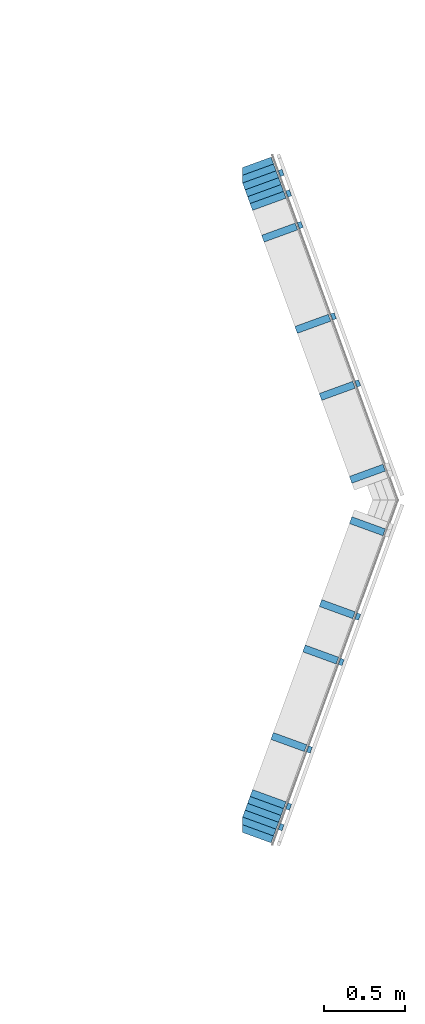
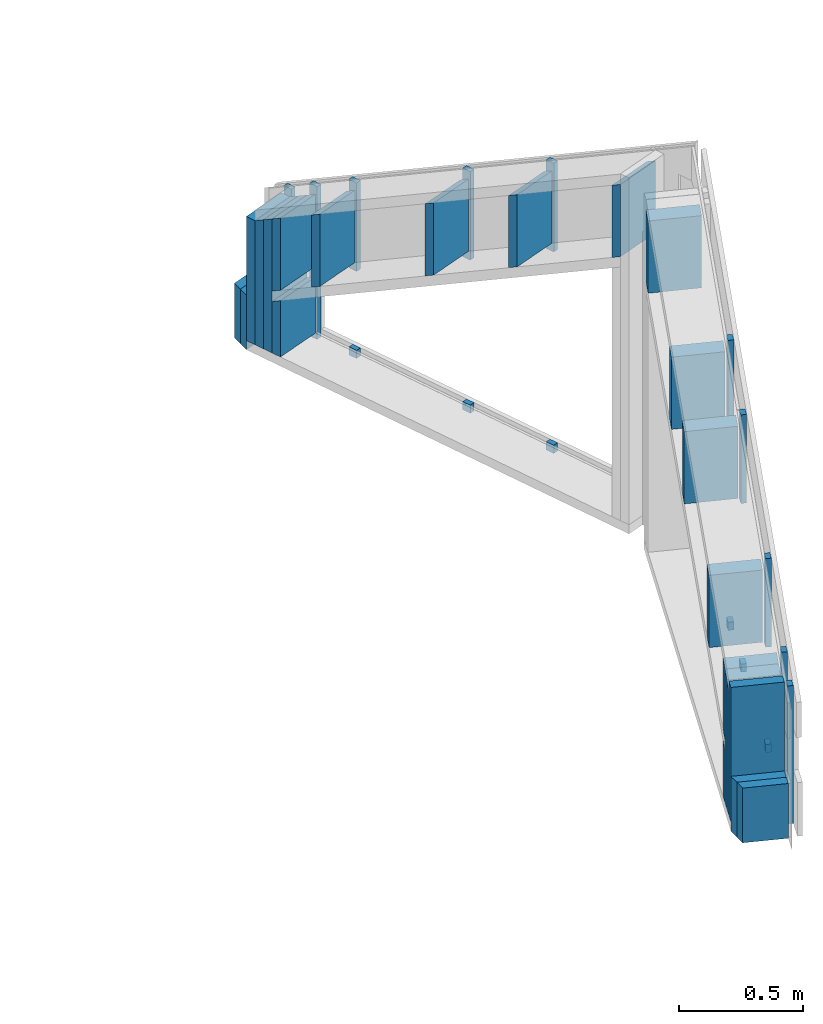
# One storey, part 21 of 24: 38 members.
"""IFC2X3 building model written with IfcOpenShell, lengths in metres."""

from ifc_helpers import new_model, si_unit, direction, frame, origin_with_axes, place, context, subcontext, project, spatial, faceted_brep, material, element, save


model = new_model("IFC2X3")

# Units and contexts
model_context = context("Model", 3, precision=1e-06, world=origin_with_axes(), true_north=direction((0.0, 1.0, 0.0)))
body_context = subcontext(model_context, "Body", "Model", "MODEL_VIEW")
ifc_project = project(units=[si_unit("LENGTHUNIT", "METRE"), si_unit("AREAUNIT", "SQUARE_METRE"), si_unit("VOLUMEUNIT", "CUBIC_METRE"), si_unit("PLANEANGLEUNIT", "RADIAN")], contexts=[model_context])

# Site, building, storey
site_placement = place(None, origin_with_axes())
site = spatial("IfcSite", under=ifc_project, at=site_placement, CompositionType="ELEMENT")
building_placement = place(site_placement, origin_with_axes())
building = spatial("IfcBuilding", under=site, at=building_placement, Name="Building 1", CompositionType="ELEMENT")
storey_placement = place(building_placement, origin_with_axes())
storey = spatial("IfcBuildingStorey", under=building, at=storey_placement, Name="Premier Etage", CompositionType="ELEMENT", Elevation=0.0)

# Members
ifc_material = material(Name="Epicéa C24")
member_1_placement = place(storey_placement, frame((17.7457776, 3.7421561, 3.39174), z_axis=(0.9396926, 0.3420201, 0.0), x_axis=(0.0, 0.0, -1.0)))
element("IfcMember", 1, at=member_1_placement, inside=storey, material=ifc_material, Name="Montant", context=body_context, shape_type="Brep", body=[
    faceted_brep([(0.0, -0.0225, -0.11), (0.0, -0.0225, 0.11), (0.0244139, 0.0225, 0.11), (0.0244139, 0.0225, -0.11), (0.63674, -0.0225, 0.11), (0.63674, 0.0225, 0.11), (0.63674, -0.0225, -0.11), (0.63674, 0.0225, -0.11)], [[[0, 1, 2, 3]], [[2, 1, 4, 5]], [[1, 0, 6, 4]], [[3, 2, 5, 7]], [[0, 3, 7, 6]], [[6, 7, 5, 4]]]),
])
member_2_placement = place(storey_placement, frame((17.7765595, -0.0380239, 3.033), z_axis=(0.9396926, -0.3420201, 0.0), x_axis=(0.0, 0.0, -1.0)))
element("IfcMember", 2, at=member_2_placement, inside=storey, material=ifc_material, Name="Montant", context=body_context, shape_type="Brep", body=[
    faceted_brep([(0.0244139, -0.0225, -0.11), (0.0244139, -0.0225, 0.11), (0.0, 0.0225, 0.11), (0.0, 0.0225, -0.11), (0.278, -0.0225, 0.11), (0.278, 0.0225, 0.11), (0.278, -0.0225, -0.11), (0.278, 0.0225, -0.11)], [[[0, 1, 2, 3]], [[2, 1, 4, 5]], [[1, 0, 6, 4]], [[6, 7, 5, 4]], [[0, 3, 7, 6]], [[3, 2, 5, 7]]]),
])
member_3_placement = place(storey_placement, frame((17.7765595, 3.6575836, 3.033), z_axis=(0.9396926, 0.3420201, 0.0), x_axis=(0.0, 0.0, -1.0)))
element("IfcMember", 3, at=member_3_placement, inside=storey, material=ifc_material, Name="Montant", context=body_context, shape_type="Brep", body=[
    faceted_brep([(0.0244139, 0.0225, 0.11), (0.0244139, 0.0225, -0.11), (0.0, -0.0225, -0.11), (0.0, -0.0225, 0.11), (0.278, 0.0225, -0.11), (0.278, -0.0225, -0.11), (0.278, 0.0225, 0.11), (0.278, -0.0225, 0.11)], [[[0, 1, 2, 3]], [[2, 1, 4, 5]], [[1, 0, 6, 4]], [[5, 4, 6, 7]], [[3, 2, 5, 7]], [[0, 3, 7, 6]]]),
])
for number, where, z_axis, x_axis, name in (
    (4, (18.3305767, 2.5301475, 2.755), (0.9396926, 0.3420201, 0.0), (0.0, 0.0, -1.0), "latte 27/40"),
    (5, (18.2285081, 0.8089812, 2.755), (0.9396926, -0.3420201, 0.0), (0.0, 0.0, -1.0), "latte 27/40"),
):
    element("IfcMember", number, at=place(storey_placement, frame(where, z_axis=z_axis, x_axis=x_axis)), inside=storey, material=ifc_material, Name=name, context=body_context, shape_type="Brep", body=[
        faceted_brep([(0.04, 0.02, -0.012), (0.04, 0.02, 0.012), (0.04, -0.02, 0.012), (0.04, -0.02, -0.012), (0.0, 0.02, 0.012), (0.0, 0.02, -0.012), (0.0, -0.02, -0.012), (0.0, -0.02, 0.012)], [[[0, 1, 2, 3]], [[4, 5, 6, 7]], [[3, 6, 5, 0]], [[2, 7, 6, 3]], [[1, 4, 7, 2]], [[0, 5, 4, 1]]]),
    ])
member_4_placement = place(storey_placement, frame((17.903418, 3.7037563, 3.4687064), z_axis=(0.9396926, 0.3420201, 0.0), x_axis=(0.0, 0.0, -1.0)))
element("IfcMember", 6, at=member_4_placement, inside=storey, material=ifc_material, Name="latte 27/40", context=body_context, shape_type="Brep", body=[
    faceted_brep([(0.7537064, 0.02, -0.012), (0.7537064, 0.02, 0.012), (0.7537064, -0.02, 0.012), (0.7537064, -0.02, -0.012), (0.0, 0.02, 0.012), (0.0, 0.02, -0.012), (0.0, -0.02, -0.012), (0.0, -0.02, 0.012)], [[[0, 1, 2, 3]], [[4, 5, 6, 7]], [[3, 6, 5, 0]], [[2, 7, 6, 3]], [[1, 4, 7, 2]], [[0, 5, 4, 1]]]),
])
member_5_placement = place(storey_placement, frame((17.7611686, 3.6998698, 3.416154), z_axis=(0.9396926, 0.3420201, 0.0), x_axis=(0.0, 0.0, -1.0)))
element("IfcMember", 7, at=member_5_placement, inside=storey, material=ifc_material, Name="Montant", context=body_context, shape_type="Brep", body=[
    faceted_brep([(0.0, -0.0225, 0.11), (0.0, -0.0225, -0.11), (0.661154, -0.0225, -0.11), (0.661154, -0.0225, 0.11), (0.0244139, 0.0225, 0.11), (0.661154, 0.0225, 0.11), (0.0244139, 0.0225, -0.11), (0.661154, 0.0225, -0.11)], [[[0, 1, 2, 3]], [[4, 0, 3, 5]], [[6, 4, 5, 7]], [[1, 6, 7, 2]], [[4, 6, 1, 0]], [[2, 7, 5, 3]]]),
])
for number, where, z_axis, x_axis, name in (
    (8, (18.2285081, 0.8089812, 3.9843828), (0.9396926, -0.3420201, 0.0), (0.0, 0.0, -1.0), "latte 27/40"),
    (9, (18.0316755, 0.2681881, 3.6721558), (0.9396926, -0.3420201, 0.0), (0.0, 0.0, -1.0), "latte 27/40"),
):
    element("IfcMember", number, at=place(storey_placement, frame(where, z_axis=z_axis, x_axis=x_axis)), inside=storey, material=ifc_material, Name=name, context=body_context, shape_type="Brep", body=[
        faceted_brep([(0.4370627, 0.02, -0.012), (0.4370627, 0.02, 0.012), (0.4370627, -0.02, 0.012), (0.4370627, -0.02, -0.012), (0.0, 0.02, 0.012), (0.0, 0.02, -0.012), (0.0, -0.02, -0.012), (0.0, -0.02, 0.012)], [[[0, 1, 2, 3]], [[4, 5, 6, 7]], [[3, 6, 5, 0]], [[2, 7, 6, 3]], [[1, 4, 7, 2]], [[0, 5, 4, 1]]]),
    ])
member_6_placement = place(storey_placement, frame((17.7765595, 3.6575836, 3.4405679), z_axis=(0.9396926, 0.3420201, 0.0), x_axis=(0.0, 0.0, -1.0)))
element("IfcMember", 10, at=member_6_placement, inside=storey, material=ifc_material, Name="Montant", context=body_context, shape_type="Brep", body=[
    faceted_brep([(0.3807858, 0.0225, -0.11), (0.3807858, 0.0225, 0.11), (0.3563719, -0.0225, 0.11), (0.3563719, -0.0225, -0.11), (0.0, -0.0225, -0.11), (0.0244139, 0.0225, -0.11), (0.0, -0.0225, 0.11), (0.0244139, 0.0225, 0.11)], [[[0, 1, 2, 3]], [[0, 3, 4, 5]], [[3, 2, 6, 4]], [[2, 1, 7, 6]], [[4, 6, 7, 5]], [[1, 0, 5, 7]]]),
])
member_7_placement = place(storey_placement, frame((17.7611686, -0.0803101, 3.416154), z_axis=(0.9396926, -0.3420201, 0.0), x_axis=(0.0, 0.0, -1.0)))
element("IfcMember", 11, at=member_7_placement, inside=storey, material=ifc_material, Name="Montant", context=body_context, shape_type="Brep", body=[
    faceted_brep([(0.0244139, -0.0225, 0.11), (0.0244139, -0.0225, -0.11), (0.661154, -0.0225, -0.11), (0.661154, -0.0225, 0.11), (0.0, 0.0225, 0.11), (0.661154, 0.0225, 0.11), (0.0, 0.0225, -0.11), (0.661154, 0.0225, -0.11)], [[[0, 1, 2, 3]], [[4, 0, 3, 5]], [[6, 4, 5, 7]], [[1, 6, 7, 2]], [[1, 0, 4, 6]], [[2, 7, 5, 3]]]),
])
member_8_placement = place(storey_placement, frame((17.7073004, -0.2522557, 2.71), z_axis=(-0.9396926, 0.3420201, 0.0), x_axis=(0.0, 0.0, 1.0)))
element("IfcMember", 12, at=member_8_placement, inside=storey, material=ifc_material, Name="Montant", context=body_context, shape_type="Brep", body=[
    faceted_brep([(0.27, -0.0225, 0.085432), (0.27, 0.0225, 0.1018107), (0.0, 0.0225, 0.1018107), (0.0, -0.0225, 0.085432), (0.27, 0.0225, -0.1018107), (0.0, 0.0225, -0.1018107), (0.27, -0.0225, -0.1018107), (0.0, -0.0225, -0.1018107)], [[[0, 1, 2, 3]], [[2, 1, 4, 5]], [[1, 0, 6, 4]], [[3, 2, 5, 7]], [[0, 3, 7, 6]], [[5, 4, 6, 7]]]),
])
member_9_placement = place(storey_placement, frame((18.3901191, 1.6477174, 4.4138311), z_axis=(0.9396926, -0.3420201, 0.0), x_axis=(0.0, 0.0, -1.0)))
element("IfcMember", 13, at=member_9_placement, inside=storey, material=ifc_material, Name="Montant", context=body_context, shape_type="Brep", body=[
    faceted_brep([(0.3563718, 0.0225, 0.11), (0.3807857, -0.0225, 0.11), (0.3807857, -0.0225, -0.11), (0.3563718, 0.0225, -0.11), (0.0244139, -0.0225, 0.11), (0.0244139, -0.0225, -0.11), (0.0, 0.0225, 0.11), (0.0, 0.0225, -0.11)], [[[0, 1, 2, 3]], [[2, 1, 4, 5]], [[1, 0, 6, 4]], [[5, 4, 6, 7]], [[0, 3, 7, 6]], [[3, 2, 5, 7]]]),
])
member_10_placement = place(storey_placement, frame((17.7765595, -0.0380239, 3.4405679), z_axis=(0.9396926, -0.3420201, 0.0), x_axis=(0.0, 0.0, -1.0)))
element("IfcMember", 14, at=member_10_placement, inside=storey, material=ifc_material, Name="Montant", context=body_context, shape_type="Brep", body=[
    faceted_brep([(0.3563718, 0.0225, -0.11), (0.3563718, 0.0225, 0.11), (0.3807857, -0.0225, 0.11), (0.3807857, -0.0225, -0.11), (0.0244139, -0.0225, -0.11), (0.0, 0.0225, -0.11), (0.0244139, -0.0225, 0.11), (0.0, 0.0225, 0.11)], [[[0, 1, 2, 3]], [[0, 3, 4, 5]], [[3, 2, 6, 4]], [[4, 6, 7, 5]], [[2, 1, 7, 6]], [[1, 0, 5, 7]]]),
])
member_11_placement = place(storey_placement, frame((17.903418, -0.0841966, 3.4687064), z_axis=(0.9396926, -0.3420201, 0.0), x_axis=(0.0, 0.0, -1.0)))
element("IfcMember", 15, at=member_11_placement, inside=storey, material=ifc_material, Name="latte 27/40", context=body_context, shape_type="Brep", body=[
    faceted_brep([(0.7537064, 0.02, -0.012), (0.7537064, 0.02, 0.012), (0.7537064, -0.02, 0.012), (0.7537064, -0.02, -0.012), (0.0, 0.02, 0.012), (0.0, 0.02, -0.012), (0.0, -0.02, -0.012), (0.0, -0.02, 0.012)], [[[0, 1, 2, 3]], [[4, 5, 6, 7]], [[3, 6, 5, 0]], [[2, 7, 6, 3]], [[1, 4, 7, 2]], [[0, 5, 4, 1]]]),
])
member_12_placement = place(storey_placement, frame((18.3305767, 2.5301475, 4.1462898), z_axis=(0.9396926, 0.3420201, 0.0), x_axis=(0.0, 0.0, -1.0)))
element("IfcMember", 16, at=member_12_placement, inside=storey, material=ifc_material, Name="latte 27/40", context=body_context, shape_type="Brep", body=[
    faceted_brep([(0.4370627, 0.02, -0.012), (0.4370628, 0.02, 0.012), (0.4370628, -0.02, 0.012), (0.4370628, -0.02, -0.012), (0.0, 0.02, 0.012), (0.0, 0.02, -0.012), (0.0, -0.02, -0.012), (0.0, -0.02, 0.012)], [[[0, 1, 2, 3]], [[4, 5, 6, 7]], [[3, 6, 5, 0]], [[2, 7, 6, 3]], [[1, 4, 7, 2]], [[0, 5, 4, 1]]]),
])
member_13_placement = place(storey_placement, frame((18.1016496, 0.8551539, 3.9562443), z_axis=(0.9396926, -0.3420201, 0.0), x_axis=(0.0, 0.0, -1.0)))
element("IfcMember", 17, at=member_13_placement, inside=storey, material=ifc_material, Name="Montant", context=body_context, shape_type="Brep", body=[
    faceted_brep([(0.3563718, 0.0225, -0.11), (0.3563718, 0.0225, 0.11), (0.3807857, -0.0225, 0.11), (0.3807857, -0.0225, -0.11), (0.0244139, -0.0225, -0.11), (0.0, 0.0225, -0.11), (0.0244139, -0.0225, 0.11), (0.0, 0.0225, 0.11)], [[[0, 1, 2, 3]], [[0, 3, 4, 5]], [[3, 2, 6, 4]], [[4, 6, 7, 5]], [[2, 1, 7, 6]], [[1, 0, 5, 7]]]),
])
member_14_placement = place(storey_placement, frame((17.7149958, -0.2071686, 2.71), z_axis=(-0.9396926, 0.3420201, 0.0), x_axis=(0.0, 0.0, 1.0)))
element("IfcMember", 18, at=member_14_placement, inside=storey, material=ifc_material, Name="Montant", context=body_context, shape_type="Brep", body=[
    faceted_brep([(0.27, -0.0225, 0.0936213), (0.27, 0.0225, 0.11), (0.0, 0.0225, 0.11), (0.0, -0.0225, 0.0936213), (0.27, -0.0225, -0.11), (0.27, 0.0225, -0.11), (0.0, 0.0225, -0.11), (0.0, -0.0225, -0.11)], [[[0, 1, 2, 3]], [[1, 0, 4, 5]], [[3, 2, 6, 7]], [[0, 3, 7, 4]], [[6, 5, 4, 7]], [[2, 1, 5, 6]]]),
])
member_15_placement = place(storey_placement, frame((18.2037181, 1.1355849, 4.1181512), z_axis=(0.9396926, -0.3420201, 0.0), x_axis=(0.0, 0.0, -1.0)))
element("IfcMember", 19, at=member_15_placement, inside=storey, material=ifc_material, Name="Montant", context=body_context, shape_type="Brep", body=[
    faceted_brep([(0.3563718, 0.0225, -0.11), (0.3563718, 0.0225, 0.11), (0.3807857, -0.0225, 0.11), (0.3807857, -0.0225, -0.11), (0.0244139, -0.0225, -0.11), (0.0, 0.0225, -0.11), (0.0244139, -0.0225, 0.11), (0.0, 0.0225, 0.11)], [[[0, 1, 2, 3]], [[0, 3, 4, 5]], [[3, 2, 6, 4]], [[4, 6, 7, 5]], [[2, 1, 7, 6]], [[1, 0, 5, 7]]]),
])
member_16_placement = place(storey_placement, frame((18.3305767, 1.0894122, 4.1462897), z_axis=(0.9396926, -0.3420201, 0.0), x_axis=(0.0, 0.0, -1.0)))
element("IfcMember", 20, at=member_16_placement, inside=storey, material=ifc_material, Name="latte 27/40", context=body_context, shape_type="Brep", body=[
    faceted_brep([(0.4370627, 0.02, -0.012), (0.4370627, 0.02, 0.012), (0.4370627, -0.02, 0.012), (0.4370627, -0.02, -0.012), (0.0, 0.02, 0.012), (0.0, 0.02, -0.012), (0.0, -0.02, -0.012), (0.0, -0.02, 0.012)], [[[0, 1, 2, 3]], [[4, 5, 6, 7]], [[3, 6, 5, 0]], [[2, 7, 6, 3]], [[1, 4, 7, 2]], [[0, 5, 4, 1]]]),
])
member_17_placement = place(storey_placement, frame((18.1799168, 2.9440821, 3.9073046), z_axis=(0.9396926, 0.3420201, 0.0), x_axis=(0.0, 0.0, -1.0)))
element("IfcMember", 21, at=member_17_placement, inside=storey, material=ifc_material, Name="latte 27/40", context=body_context, shape_type="Brep", body=[
    faceted_brep([(0.4370627, 0.02, -0.012), (0.4370628, 0.02, 0.012), (0.4370628, -0.02, 0.012), (0.4370628, -0.02, -0.012), (0.0, 0.02, 0.012), (0.0, 0.02, -0.012), (0.0, -0.02, -0.012), (0.0, -0.02, 0.012)], [[[0, 1, 2, 3]], [[4, 5, 6, 7]], [[3, 6, 5, 0]], [[2, 7, 6, 3]], [[1, 4, 7, 2]], [[0, 5, 4, 1]]]),
])
member_18_placement = place(storey_placement, frame((18.3305767, 1.0894122, 2.755), z_axis=(0.9396926, -0.3420201, 0.0), x_axis=(0.0, 0.0, -1.0)))
element("IfcMember", 22, at=member_18_placement, inside=storey, material=ifc_material, Name="latte 27/40", context=body_context, shape_type="Brep", body=[
    faceted_brep([(0.04, 0.02, -0.012), (0.04, 0.02, 0.012), (0.04, -0.02, 0.012), (0.04, -0.02, -0.012), (0.0, 0.02, 0.012), (0.0, 0.02, -0.012), (0.0, -0.02, -0.012), (0.0, -0.02, 0.012)], [[[0, 1, 2, 3]], [[4, 5, 6, 7]], [[3, 6, 5, 0]], [[2, 7, 6, 3]], [[1, 4, 7, 2]], [[0, 5, 4, 1]]]),
])
member_19_placement = place(storey_placement, frame((17.8478462, 3.461725, 3.553647), z_axis=(0.9396926, 0.3420201, 0.0), x_axis=(0.0, 0.0, -1.0)))
element("IfcMember", 23, at=member_19_placement, inside=storey, material=ifc_material, Name="Montant", context=body_context, shape_type="Brep", body=[
    faceted_brep([(0.3807858, 0.0225, -0.11), (0.3807858, 0.0225, 0.11), (0.3563719, -0.0225, 0.11), (0.3563719, -0.0225, -0.11), (0.0, -0.0225, -0.11), (0.0244139, 0.0225, -0.11), (0.0, -0.0225, 0.11), (0.0244139, 0.0225, 0.11)], [[[0, 1, 2, 3]], [[0, 3, 4, 5]], [[3, 2, 6, 4]], [[2, 1, 7, 6]], [[4, 6, 7, 5]], [[1, 0, 5, 7]]]),
])
for number, where, z_axis, x_axis, name in (
    (24, (18.1799168, 2.9440821, 2.755), (0.9396926, 0.3420201, 0.0), (0.0, 0.0, -1.0), "latte 27/40"),
    (25, (17.9747047, 3.5078977, 2.755), (0.9396926, 0.3420201, 0.0), (0.0, 0.0, -1.0), "latte 27/40"),
    (26, (18.0316755, 0.2681881, 2.755), (0.9396926, -0.3420201, 0.0), (0.0, 0.0, -1.0), "latte 27/40"),
):
    element("IfcMember", number, at=place(storey_placement, frame(where, z_axis=z_axis, x_axis=x_axis)), inside=storey, material=ifc_material, Name=name, context=body_context, shape_type="Brep", body=[
        faceted_brep([(0.04, 0.02, -0.012), (0.04, 0.02, 0.012), (0.04, -0.02, 0.012), (0.04, -0.02, -0.012), (0.0, 0.02, 0.012), (0.0, 0.02, -0.012), (0.0, -0.02, -0.012), (0.0, -0.02, 0.012)], [[[0, 1, 2, 3]], [[4, 5, 6, 7]], [[3, 6, 5, 0]], [[2, 7, 6, 3]], [[1, 4, 7, 2]], [[0, 5, 4, 1]]]),
    ])
member_20_placement = place(storey_placement, frame((17.9747047, 3.5078977, 3.5817855), z_axis=(0.9396926, 0.3420201, 0.0), x_axis=(0.0, 0.0, -1.0)))
element("IfcMember", 27, at=member_20_placement, inside=storey, material=ifc_material, Name="latte 27/40", context=body_context, shape_type="Brep", body=[
    faceted_brep([(0.4370627, 0.02, -0.012), (0.4370628, 0.02, 0.012), (0.4370628, -0.02, 0.012), (0.4370628, -0.02, -0.012), (0.0, 0.02, 0.012), (0.0, 0.02, -0.012), (0.0, -0.02, -0.012), (0.0, -0.02, 0.012)], [[[0, 1, 2, 3]], [[4, 5, 6, 7]], [[3, 6, 5, 0]], [[2, 7, 6, 3]], [[1, 4, 7, 2]], [[0, 5, 4, 1]]]),
])
member_21_placement = place(storey_placement, frame((18.0530583, 2.8979094, 3.8791661), z_axis=(0.9396926, 0.3420201, 0.0), x_axis=(0.0, 0.0, -1.0)))
element("IfcMember", 28, at=member_21_placement, inside=storey, material=ifc_material, Name="Montant", context=body_context, shape_type="Brep", body=[
    faceted_brep([(0.3807858, 0.0225, -0.11), (0.3807858, 0.0225, 0.11), (0.3563719, -0.0225, 0.11), (0.3563719, -0.0225, -0.11), (0.0, -0.0225, -0.11), (0.0244139, 0.0225, -0.11), (0.0, -0.0225, 0.11), (0.0244139, 0.0225, 0.11)], [[[0, 1, 2, 3]], [[0, 3, 4, 5]], [[3, 2, 6, 4]], [[2, 1, 7, 6]], [[4, 6, 7, 5]], [[1, 0, 5, 7]]]),
])
member_22_placement = place(storey_placement, frame((17.904817, 0.3143608, 3.6440173), z_axis=(0.9396926, -0.3420201, 0.0), x_axis=(0.0, 0.0, -1.0)))
element("IfcMember", 29, at=member_22_placement, inside=storey, material=ifc_material, Name="Montant", context=body_context, shape_type="Brep", body=[
    faceted_brep([(0.3563718, 0.0225, -0.11), (0.3563718, 0.0225, 0.11), (0.3807857, -0.0225, 0.11), (0.3807857, -0.0225, -0.11), (0.0244139, -0.0225, -0.11), (0.0, 0.0225, -0.11), (0.0244139, -0.0225, 0.11), (0.0, 0.0225, 0.11)], [[[0, 1, 2, 3]], [[0, 3, 4, 5]], [[3, 2, 6, 4]], [[4, 6, 7, 5]], [[2, 1, 7, 6]], [[1, 0, 5, 7]]]),
])
member_23_placement = place(storey_placement, frame((18.2037182, 2.4839748, 4.1181513), z_axis=(0.9396926, 0.3420201, 0.0), x_axis=(0.0, 0.0, -1.0)))
element("IfcMember", 30, at=member_23_placement, inside=storey, material=ifc_material, Name="Montant", context=body_context, shape_type="Brep", body=[
    faceted_brep([(0.3807858, 0.0225, -0.11), (0.3807858, 0.0225, 0.11), (0.3563719, -0.0225, 0.11), (0.3563719, -0.0225, -0.11), (0.0, -0.0225, -0.11), (0.0244139, 0.0225, -0.11), (0.0, -0.0225, 0.11), (0.0244139, 0.0225, 0.11)], [[[0, 1, 2, 3]], [[0, 3, 4, 5]], [[3, 2, 6, 4]], [[2, 1, 7, 6]], [[4, 6, 7, 5]], [[1, 0, 5, 7]]]),
])
member_24_placement = place(storey_placement, frame((17.8572453, -0.2110551, 3.3954646), z_axis=(0.9396926, -0.3420201, 0.0), x_axis=(0.0, 0.0, -1.0)))
element("IfcMember", 31, at=member_24_placement, inside=storey, material=ifc_material, Name="latte 27/40", context=body_context, shape_type="Brep", body=[
    faceted_brep([(0.6804646, 0.02, -0.012), (0.6804646, 0.02, 0.012), (0.6804646, -0.02, 0.012), (0.6804646, -0.02, -0.012), (0.0, 0.02, 0.012), (0.0, 0.02, -0.012), (0.0, -0.02, -0.012), (0.0, -0.02, 0.012)], [[[0, 1, 2, 3]], [[4, 5, 6, 7]], [[3, 6, 5, 0]], [[2, 7, 6, 3]], [[1, 4, 7, 2]], [[0, 5, 4, 1]]]),
])
member_25_placement = place(storey_placement, frame((17.7457777, -0.1225962, 3.39174), z_axis=(0.9396926, -0.3420201, 0.0), x_axis=(0.0, 0.0, -1.0)))
element("IfcMember", 32, at=member_25_placement, inside=storey, material=ifc_material, Name="Montant", context=body_context, shape_type="Brep", body=[
    faceted_brep([(0.0244139, -0.0225, -0.11), (0.0244139, -0.0225, 0.11), (0.0, 0.0225, 0.11), (0.0, 0.0225, -0.11), (0.63674, -0.0225, 0.11), (0.63674, 0.0225, 0.11), (0.63674, -0.0225, -0.11), (0.63674, 0.0225, -0.11)], [[[0, 1, 2, 3]], [[2, 1, 4, 5]], [[1, 0, 6, 4]], [[0, 3, 7, 6]], [[3, 2, 5, 7]], [[6, 7, 5, 4]]]),
])
member_26_placement = place(storey_placement, frame((17.7073004, 3.8718155, 2.98), z_axis=(-0.9396926, -0.3420201, 0.0), x_axis=(0.0, 0.0, -1.0)))
element("IfcMember", 33, at=member_26_placement, inside=storey, material=ifc_material, Name="Montant", context=body_context, shape_type="Brep", body=[
    faceted_brep([(0.0, -0.0225, 0.085432), (0.0, 0.0225, 0.1018106), (0.0, 0.0225, -0.1018106), (0.0, -0.0225, -0.1018106), (0.27, 0.0225, 0.1018106), (0.27, 0.0225, -0.1018106), (0.27, -0.0225, 0.085432), (0.27, -0.0225, -0.1018106)], [[[0, 1, 2, 3]], [[2, 1, 4, 5]], [[1, 0, 6, 4]], [[0, 3, 7, 6]], [[4, 6, 7, 5]], [[3, 2, 5, 7]]]),
])
member_27_placement = place(storey_placement, frame((18.3901191, 1.9718423, 4.4138311), z_axis=(0.9396926, 0.3420201, 0.0), x_axis=(0.0, 0.0, -1.0)))
element("IfcMember", 34, at=member_27_placement, inside=storey, material=ifc_material, Name="Montant", context=body_context, shape_type="Brep", body=[
    faceted_brep([(0.3807858, 0.0225, -0.11), (0.3807858, 0.0225, 0.11), (0.3563719, -0.0225, 0.11), (0.3563719, -0.0225, -0.11), (0.0, -0.0225, -0.11), (0.0244139, 0.0225, -0.11), (0.0, -0.0225, 0.11), (0.0244139, 0.0225, 0.11)], [[[0, 1, 2, 3]], [[0, 3, 4, 5]], [[3, 2, 6, 4]], [[2, 1, 7, 6]], [[4, 6, 7, 5]], [[1, 0, 5, 7]]]),
])
member_28_placement = place(storey_placement, frame((17.7149958, 3.8267285, 2.98), z_axis=(-0.9396926, -0.3420201, 0.0), x_axis=(0.0, 0.0, -1.0)))
element("IfcMember", 35, at=member_28_placement, inside=storey, material=ifc_material, Name="Montant", context=body_context, shape_type="Brep", body=[
    faceted_brep([(0.0, -0.0225, 0.0936213), (0.0, 0.0225, 0.11), (0.0, 0.0225, -0.11), (0.0, -0.0225, -0.11), (0.27, 0.0225, 0.11), (0.27, 0.0225, -0.11), (0.27, -0.0225, 0.0936213), (0.27, -0.0225, -0.11)], [[[0, 1, 2, 3]], [[2, 1, 4, 5]], [[1, 0, 6, 4]], [[0, 3, 7, 6]], [[4, 6, 7, 5]], [[3, 2, 5, 7]]]),
])
member_29_placement = place(storey_placement, frame((17.7303867, 3.7844423, 3.3673261), z_axis=(0.9396926, 0.3420201, 0.0), x_axis=(0.0, 0.0, -1.0)))
element("IfcMember", 36, at=member_29_placement, inside=storey, material=ifc_material, Name="Montant", context=body_context, shape_type="Brep", body=[
    faceted_brep([(0.0, -0.0225, 0.11), (0.0, 0.0225, 0.11), (0.0, 0.0225, -0.11), (0.0, -0.0225, -0.11), (0.6123261, 0.0225, 0.11), (0.6123261, 0.0225, -0.11), (0.6123261, -0.0225, 0.11), (0.6123261, -0.0225, -0.11)], [[[0, 1, 2, 3]], [[2, 1, 4, 5]], [[1, 0, 6, 4]], [[0, 3, 7, 6]], [[3, 2, 5, 7]], [[7, 5, 4, 6]]]),
])
member_30_placement = place(storey_placement, frame((17.8572452, 3.830615, 3.3954645), z_axis=(0.9396926, 0.3420201, 0.0), x_axis=(0.0, 0.0, -1.0)))
element("IfcMember", 37, at=member_30_placement, inside=storey, material=ifc_material, Name="latte 27/40", context=body_context, shape_type="Brep", body=[
    faceted_brep([(0.6804645, 0.02, -0.012), (0.6804645, 0.02, 0.012), (0.6804645, -0.02, 0.012), (0.6804645, -0.02, -0.012), (0.0, 0.02, 0.012), (0.0, 0.02, -0.012), (0.0, -0.02, -0.012), (0.0, -0.02, 0.012)], [[[0, 1, 2, 3]], [[4, 5, 6, 7]], [[3, 6, 5, 0]], [[2, 7, 6, 3]], [[1, 4, 7, 2]], [[0, 5, 4, 1]]]),
])
member_31_placement = place(storey_placement, frame((17.7303868, -0.1648824, 3.4185222), z_axis=(0.9396926, -0.3420201, 0.0), x_axis=(0.0, 0.0, -1.0)))
element("IfcMember", 38, at=member_31_placement, inside=storey, material=ifc_material, Name="Montant", context=body_context, shape_type="Brep", body=[
    faceted_brep([(0.0, 0.0225, -0.11), (0.0, -0.0225, -0.11), (0.0, -0.0225, 0.11), (0.0, 0.0225, 0.11), (0.6635222, -0.0225, -0.11), (0.6635222, -0.0225, 0.11), (0.6635222, 0.0225, -0.11), (0.6635222, 0.0225, 0.11)], [[[0, 1, 2, 3]], [[2, 1, 4, 5]], [[1, 0, 6, 4]], [[0, 3, 7, 6]], [[3, 2, 5, 7]], [[4, 6, 7, 5]]]),
])

save(model, "model.ifc")
